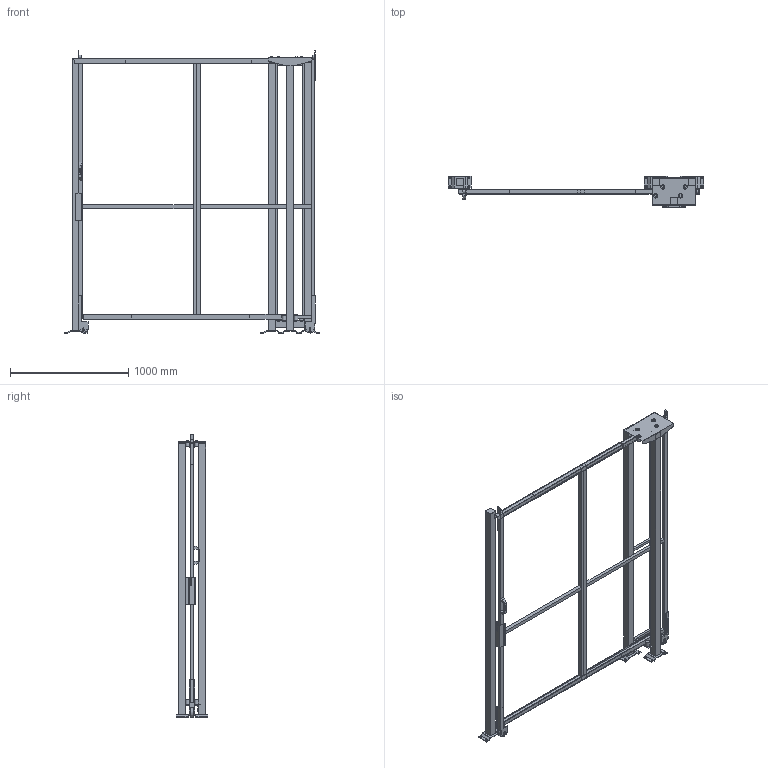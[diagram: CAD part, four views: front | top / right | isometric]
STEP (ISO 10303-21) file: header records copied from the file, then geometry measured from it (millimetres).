
FILE_DESCRIPTION(/* description */ (''),/* implementation_level */ '2;1');
FILE_NAME(/* name */ 'C:\SafeGuarding\ELABORATI\KLADKA_2025-03-20-08-30-52.stp',/* time_stamp */ '2025-03-20T08:30:52+01:00',/* author */ ('admin'),/* organization */ (''),/* preprocessor_version */ 'ST-DEVELOPER v18.1',/* originating_system */ 'AutoCAD Mechanical',/* authorisation */ '');
FILE_SCHEMA (('AUTOMOTIVE_DESIGN { 1 0 10303 214 3 1 1 }'));
Length unit declared in the file: millimetre
Products named in the file (4): Product; R_VFPA.REPE30.10002200; R_VFPA.REPE20.02502200; P_VFMA.V360SDU.2320
Assembly tree (7 placements, depth 2):
  Product
    R_VFPA.REPE30.10002200  x2
    R_VFPA.REPE20.02502200
    P_VFMA.V360SDU.2320  x4
Bounding box: 2162.03 x 264.11 x 2390.02 mm (x, y, z)
Volume: 51742054.2 mm3; surface area: 6751603.9 mm2
Topology: 60 solids, 71 shells, 549 faces, 1692 edges, 1695 vertices
Faces by surface type: plane 497, cylinder 50, sphere 2
Full cylindrical faces by diameter (mm): 9 x4, 11 x16, 13 x4, 30 x6, 36 x8, 80 x2
Entity records: 14471 total; most frequent: CARTESIAN_POINT 3027, DIRECTION 2210, ORIENTED_EDGE 2058, EDGE_CURVE 1078, LINE 1042, VECTOR 1042, VERTEX_POINT 758, AXIS2_PLACEMENT_3D 584
